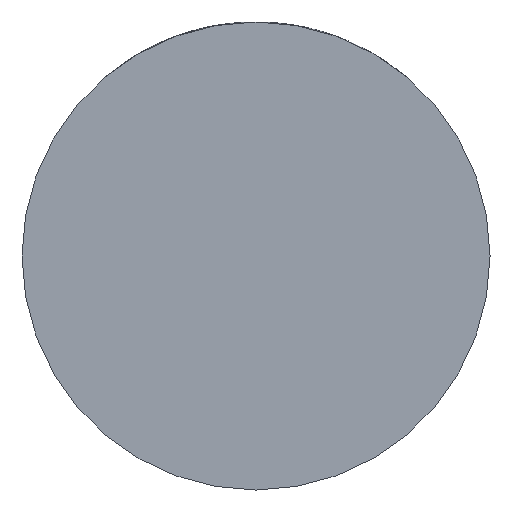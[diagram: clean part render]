
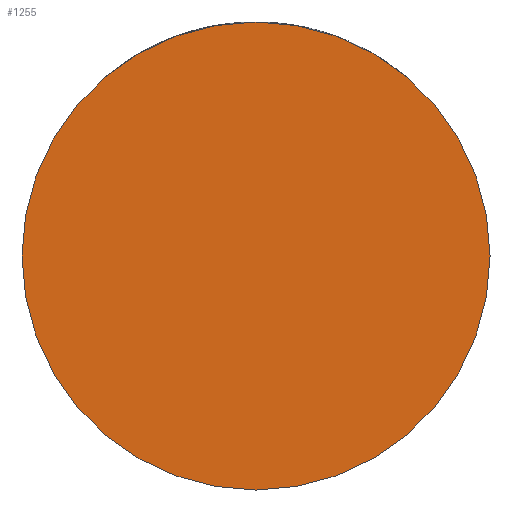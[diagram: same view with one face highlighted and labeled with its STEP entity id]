
A CAD part, front view. The second image highlights one B-rep face of the part: STEP entity #1255.
In plain terms, the highlighted planar face has unit normal (0, -1, 0).
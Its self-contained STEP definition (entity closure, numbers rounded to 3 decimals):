
#21 = EDGE_CURVE ( 'NONE', #3755, #2136, #2484, .T. ) ;
#419 = DIRECTION ( 'NONE',  ( 0., -1., 0. ) ) ;
#657 = EDGE_CURVE ( 'NONE', #2136, #3755, #1444, .T. ) ;
#691 = CARTESIAN_POINT ( 'NONE',  ( -32., -28., 0. ) ) ;
#1010 = CARTESIAN_POINT ( 'NONE',  ( 0., -28., 0. ) ) ;
#1255 = ADVANCED_FACE ( 'NONE', ( #2580 ), #4250, .T. ) ;
#1444 = CIRCLE ( 'NONE', #2953, 32. ) ;
#1691 = ORIENTED_EDGE ( 'NONE', *, *, #657, .T. ) ;
#1795 = CARTESIAN_POINT ( 'NONE',  ( 0., -28., 0. ) ) ;
#2037 = DIRECTION ( 'NONE',  ( 1., 0., 0. ) ) ;
#2136 = VERTEX_POINT ( 'NONE', #3474 ) ;
#2242 = DIRECTION ( 'NONE',  ( 0., -1., 0. ) ) ;
#2464 = EDGE_LOOP ( 'NONE', ( #3744, #1691 ) ) ;
#2484 = CIRCLE ( 'NONE', #3434, 32. ) ;
#2580 = FACE_OUTER_BOUND ( 'NONE', #2464, .T. ) ;
#2953 = AXIS2_PLACEMENT_3D ( 'NONE', #1795, #419, #3171 ) ;
#3171 = DIRECTION ( 'NONE',  ( 1., 0., 0. ) ) ;
#3423 = DIRECTION ( 'NONE',  ( 0., -1., 0. ) ) ;
#3434 = AXIS2_PLACEMENT_3D ( 'NONE', #1010, #3423, #2037 ) ;
#3474 = CARTESIAN_POINT ( 'NONE',  ( 32., -28., 0. ) ) ;
#3567 = DIRECTION ( 'NONE',  ( 1., 0., 0. ) ) ;
#3744 = ORIENTED_EDGE ( 'NONE', *, *, #21, .T. ) ;
#3755 = VERTEX_POINT ( 'NONE', #691 ) ;
#4250 = PLANE ( 'NONE',  #4271 ) ;
#4269 = CARTESIAN_POINT ( 'NONE',  ( 0., -28., 0. ) ) ;
#4271 = AXIS2_PLACEMENT_3D ( 'NONE', #4269, #2242, #3567 ) ;
